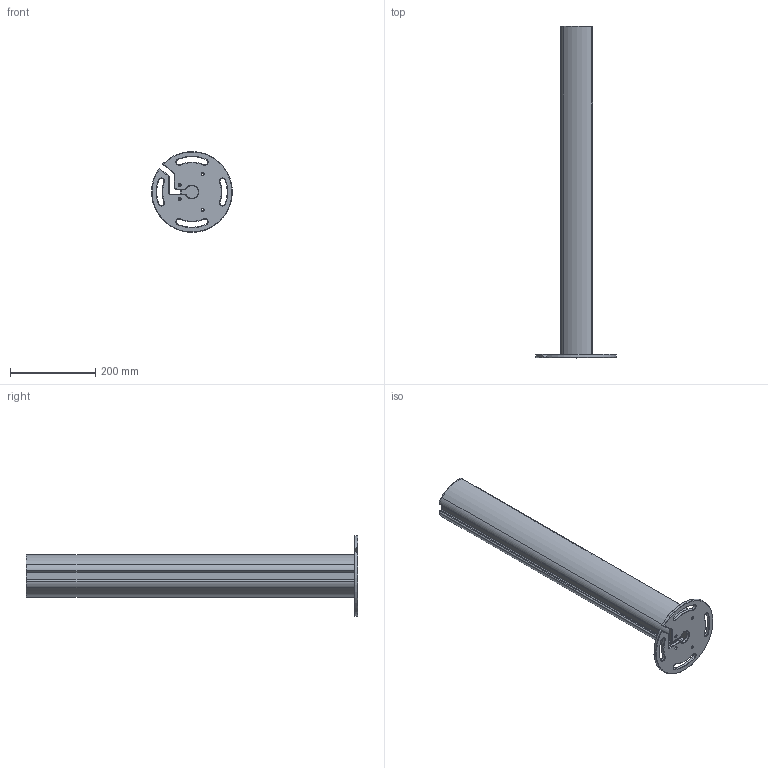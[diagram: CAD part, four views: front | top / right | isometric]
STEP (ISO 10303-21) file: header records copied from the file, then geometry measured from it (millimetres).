
FILE_DESCRIPTION((''),'2;1');
FILE_NAME('ESQC_ASM','2022-07-19T11:53:01',('18822879468'),(''),'CREO PARAMETRIC BY PTC INC, 2019010','CREO PARAMETRIC BY PTC INC, 2019010','');
FILE_SCHEMA(('CONFIG_CONTROL_DESIGN'));
Length unit declared in the file: millimetre
Products named in the file (5): 00; _-0001; _-0002; 000; ESQC_ASM
Assembly tree (4 placements, depth 2):
  ESQC_ASM
    00
    _-0001
    _-0002
    000
Bounding box: 189.81 x 780 x 189.85 mm (x, y, z)
Volume: 1224903.2 mm3; surface area: 634149.7 mm2
Topology: 4 solids, 4 shells, 239 faces, 613 edges, 378 vertices
Faces by surface type: cylinder 98, plane 73, cone 68
Entity records: 7388 total; most frequent: DIRECTION 1365, CARTESIAN_POINT 1235, ORIENTED_EDGE 1218, EDGE_CURVE 609, AXIS2_PLACEMENT_3D 508, VERTEX_POINT 378, VECTOR 349, LINE 349
